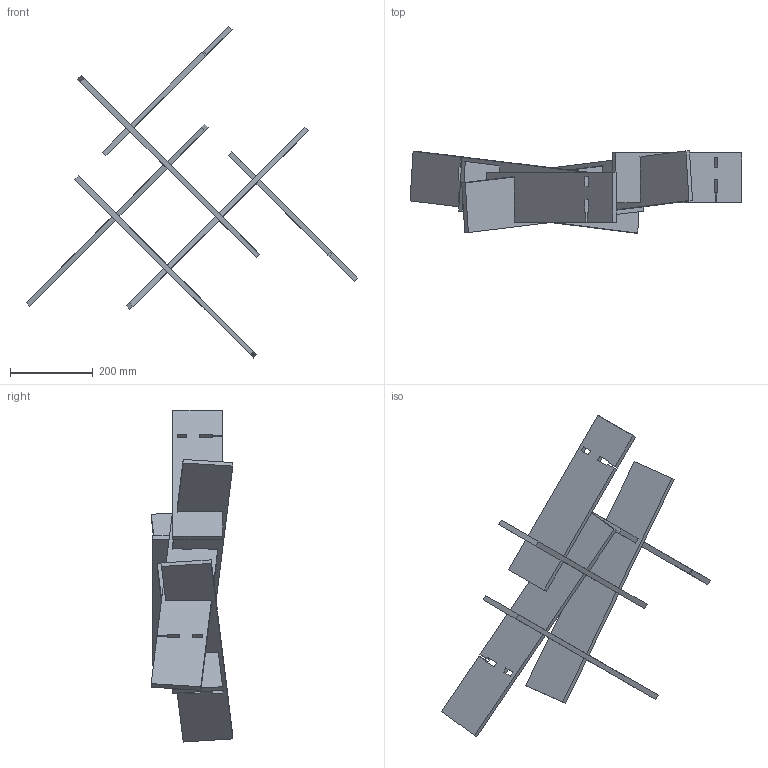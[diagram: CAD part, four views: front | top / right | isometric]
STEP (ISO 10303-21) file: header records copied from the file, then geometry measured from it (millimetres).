
FILE_DESCRIPTION(/* description */ (''),/* implementation_level */ '2;1');
FILE_NAME(/* name */ 'Y:\Design and Engineering\MaterialLogiq\CAD ASSETS\MASTER\GRAFFLE\WEB ASSETS\PET GRAFFLE_2x2_5DEG_SQUARE.stp',/* time_stamp */ '2023-11-16T15:15:03-06:00',/* author */ ('Grant Baker'),/* organization */ (''),/* preprocessor_version */ 'ST-DEVELOPER v19',/* originating_system */ 'Autodesk Inventor 2023',/* authorisation */ '');
FILE_SCHEMA (('AUTOMOTIVE_DESIGN { 1 0 10303 214 3 1 1 }'));
Length unit declared in the file: inch
Products named in the file (4): PET GRAFFLE_2x2_5DEG_SQUARE; PET GRAFFLE_2x2_B_5DEG_SQUARE; PET GRAFFLE_2x2_A_5DEG_SQUARE; PET GRAFFLE_2x2_LINK_5DEG_SQUARE
Assembly tree (6 placements, depth 2):
  PET GRAFFLE_2x2_5DEG_SQUARE
    PET GRAFFLE_2x2_B_5DEG_SQUARE  x2
    PET GRAFFLE_2x2_A_5DEG_SQUARE  x2
    PET GRAFFLE_2x2_LINK_5DEG_SQUARE  x2
Bounding box: 803.79 x 197.75 x 803.79 mm (x, y, z)
Volume: 4672672.3 mm3; surface area: 902280.3 mm2
Topology: 6 solids, 6 shells, 228 faces, 648 edges, 432 vertices
Faces by surface type: plane 228
Entity records: 3831 total; most frequent: CARTESIAN_POINT 664, ORIENTED_EDGE 648, DIRECTION 572, LINE 324, VECTOR 324, EDGE_CURVE 324, VERTEX_POINT 216, EDGE_LOOP 130
